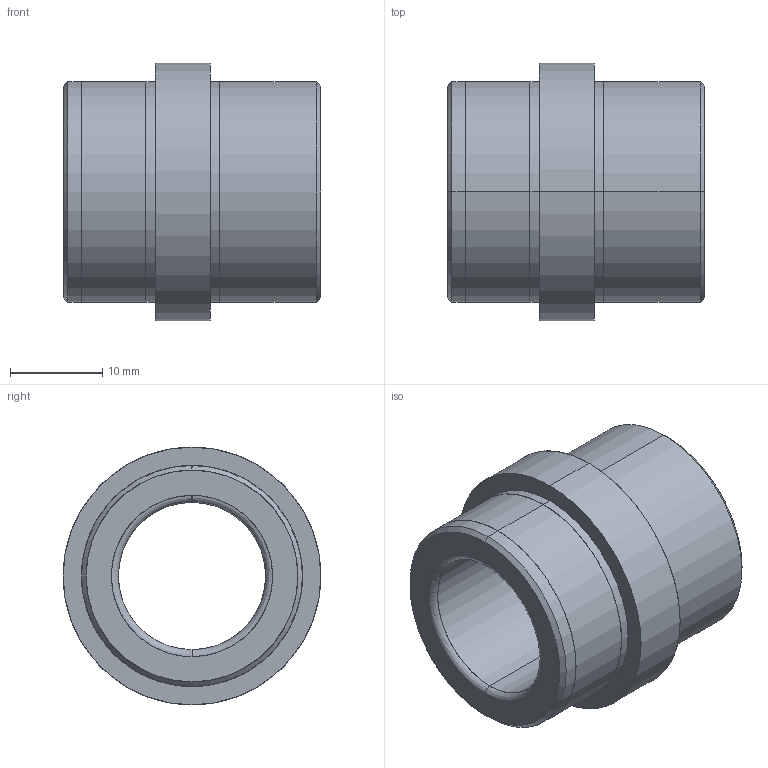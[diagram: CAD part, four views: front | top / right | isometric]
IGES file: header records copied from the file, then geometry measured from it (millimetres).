
Start section: SolidWorks IGES file using analytic representation for surfaces
Global section: file name: C:\Documents and Settings\kalite-mail\Desktop\IGS\D22\D22 - 16x16.IGS; native system: SolidWorks 2008; preprocessor: SolidWorks 2008; author: kalite-mail; date: 080617.121948; units: millimetre
Bounding box: 28 x 28 x 28 mm (x, y, z)
Surface area: 4349.3 mm2 (no closed solid volume)
Topology: 0 solids, 0 shells, 29 faces, 600 edges, 600 vertices
Faces by surface type: revolution 18, bspline 11
